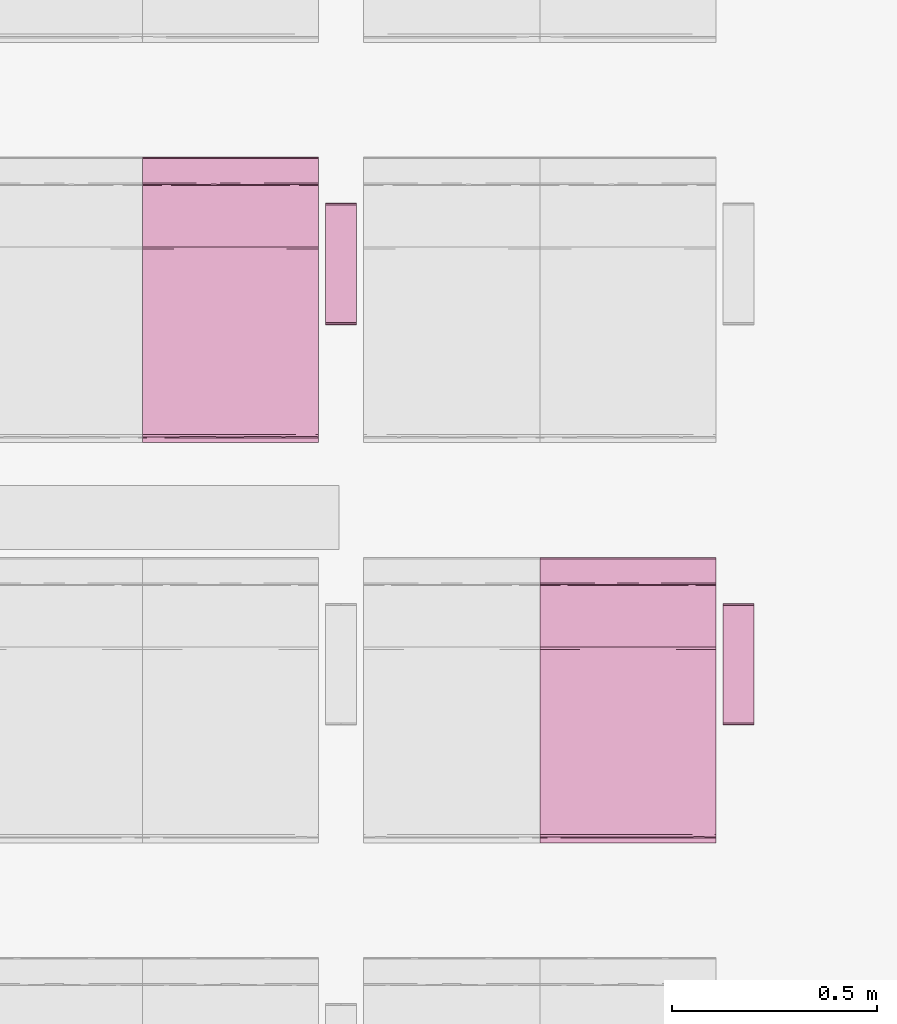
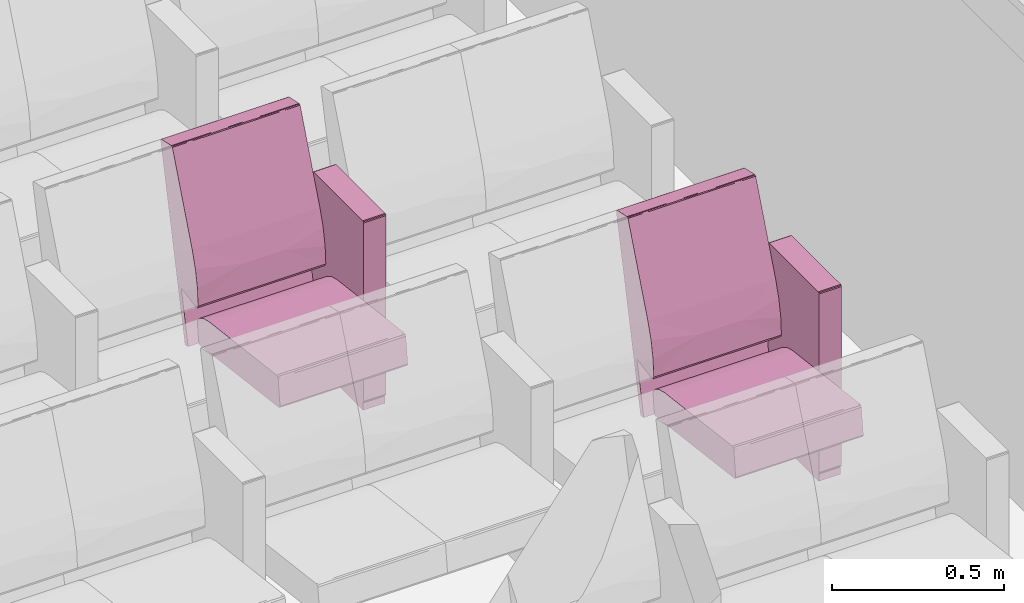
# One storey, part 131 of 155: 2 furnishings.
"""IFC2X3 building model written with IfcOpenShell, lengths in metres."""

from ifc_helpers import new_model, entity, si_unit, converted_unit, derived_unit, direction, frame, origin, place, context, subcontext, project, spatial, faceted_brep, source, transform, mapped, material, material_list, type_object, type_shapes, element, save


model = new_model("IFC2X3")

# Units and contexts
model_context = context("Model", 3, precision=1e-05, world=origin(), true_north=direction((6.12303176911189e-17, 1.0)))
body_context = subcontext(model_context, "Body", "Model", "MODEL_VIEW")
ifc_project = project(units=[si_unit("LENGTHUNIT", "METRE"), si_unit("AREAUNIT", "SQUARE_METRE"), si_unit("VOLUMEUNIT", "CUBIC_METRE"), converted_unit("PLANEANGLEUNIT", "DEGREE", entity("IfcRatioMeasure", 0.0174532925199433), si_unit("PLANEANGLEUNIT", "RADIAN"), dimensions=[0, 0, 0, 0, 0, 0, 0]), si_unit("MASSUNIT", "GRAM", prefix="KILO"), derived_unit("MASSDENSITYUNIT", [(si_unit("MASSUNIT", "GRAM", prefix="KILO"), 1), (si_unit("LENGTHUNIT", "METRE"), -3)]), si_unit("TIMEUNIT", "SECOND"), si_unit("FREQUENCYUNIT", "HERTZ"), si_unit("THERMODYNAMICTEMPERATUREUNIT", "DEGREE_CELSIUS"), derived_unit("THERMALTRANSMITTANCEUNIT", [(si_unit("MASSUNIT", "GRAM", prefix="KILO"), 1), (si_unit("THERMODYNAMICTEMPERATUREUNIT", "KELVIN"), -1), (si_unit("TIMEUNIT", "SECOND"), -3)]), derived_unit("VOLUMETRICFLOWRATEUNIT", [(si_unit("LENGTHUNIT", "METRE"), 3), (si_unit("TIMEUNIT", "SECOND"), -1)]), si_unit("ELECTRICCURRENTUNIT", "AMPERE"), si_unit("ELECTRICVOLTAGEUNIT", "VOLT"), si_unit("POWERUNIT", "WATT"), si_unit("FORCEUNIT", "NEWTON", prefix="KILO"), si_unit("ILLUMINANCEUNIT", "LUX"), si_unit("LUMINOUSFLUXUNIT", "LUMEN"), si_unit("LUMINOUSINTENSITYUNIT", "CANDELA"), derived_unit("USERDEFINED", [(si_unit("MASSUNIT", "GRAM", prefix="KILO"), -1), (si_unit("LENGTHUNIT", "METRE"), -2), (si_unit("TIMEUNIT", "SECOND"), 3), (si_unit("LUMINOUSFLUXUNIT", "LUMEN"), 1)]), derived_unit("LINEARVELOCITYUNIT", [(si_unit("LENGTHUNIT", "METRE"), 1), (si_unit("TIMEUNIT", "SECOND"), -1)]), si_unit("PRESSUREUNIT", "PASCAL"), derived_unit("USERDEFINED", [(si_unit("LENGTHUNIT", "METRE"), -2), (si_unit("MASSUNIT", "GRAM", prefix="KILO"), 1), (si_unit("TIMEUNIT", "SECOND"), -2)])], contexts=[model_context])

# Site, building, storey, space
site_placement = place(None, frame((26.9889013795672, -17.5624287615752, 0.0)))
site = spatial("IfcSite", under=ifc_project, at=site_placement, Name="Default", CompositionType="ELEMENT")
building_placement = place(site_placement, origin())
building = spatial("IfcBuilding", under=site, at=building_placement, Name="C. C. L. Monsenhor Antônio Sampaio", CompositionType="ELEMENT")
storey_placement = place(building_placement, frame((0.0, 0.0, 1.19999999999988)))
storey = spatial("IfcBuildingStorey", under=building, at=storey_placement, Name="Nível 1.2", CompositionType="ELEMENT", Elevation=1.19999999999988)
space_placement = place(storey_placement, origin())
space = spatial("IfcSpace", under=storey, at=space_placement, Name="94", CompositionType="ELEMENT", InteriorOrExteriorSpace="INTERNAL")

# Furnishings
ifc_material_1 = material(Name="V9 - V9 - Ecopelle_672_658")
ifc_material_2 = material(Name="V9 - V9 - RAL_9006_Grigio")
ifc_material_list_1 = material_list([ifc_material_1, ifc_material_2])
ifc_material_list_2 = material_list([ifc_material_1, ifc_material_2])
furniture_type = type_object("IfcFurnitureType", Name="Cadeira auditório", material=ifc_material_list_2)
shared_shape = source(origin(), body_context, "Body", "Brep", [
    faceted_brep([(0.405536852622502, -0.1075, 0.339809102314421), (0.410560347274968, -0.131924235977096, 0.34246450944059), (0.405536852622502, -0.156348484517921, 0.339809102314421), (0.41079981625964, -0.0179166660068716, 0.342749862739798), (0.410597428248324, -0.084060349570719, 0.342506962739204), (0.405536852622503, -0.0537499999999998, 0.339809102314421), (0.410248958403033, -0.173608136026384, 0.342130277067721), (0.405536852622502, -0.215, 0.339809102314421), (0.412515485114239, -0.143333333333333, 0.348529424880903), (0.412515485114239, -0.185674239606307, 0.348529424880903), (0.405536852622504, 0.1075, 0.33980910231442), (0.405536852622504, 0.156348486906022, 0.33980910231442), (0.410560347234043, 0.131924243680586, 0.342464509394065), (0.405536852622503, 0.0, 0.33980910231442), (0.411170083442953, 0.0341365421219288, 0.343251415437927), (0.41251548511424, 0.0, 0.348529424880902), (0.412515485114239, -0.0358333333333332, 0.348529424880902), (0.412515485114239, -0.0716666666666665, 0.348529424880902), (0.41251548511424, 0.143333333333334, 0.348529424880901), (0.41059742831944, 0.0840603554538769, 0.342506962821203), (0.405536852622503, 0.0537500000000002, 0.33980910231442), (0.410248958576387, 0.173608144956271, 0.342130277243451), (0.410799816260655, 0.215, 0.342749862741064), (0.412515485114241, 0.185674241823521, 0.348529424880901), (0.412515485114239, -0.215, 0.348529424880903), (0.410799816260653, -0.215, 0.342749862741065), (0.412515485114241, 0.215, 0.348529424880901), (0.41251548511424, 0.0716666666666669, 0.348529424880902), (0.405536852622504, 0.215, 0.33980910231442), (-0.0557900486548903, -0.215, 0.28268145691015), (-0.0557900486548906, -0.1881249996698, 0.282681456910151), (-0.0557900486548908, -0.161250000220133, 0.282681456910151), (-0.055790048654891, -0.134374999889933, 0.282681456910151), (-0.0557900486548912, -0.107499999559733, 0.282681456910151), (-0.0557900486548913, -0.0806250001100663, 0.282681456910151), (-0.0557900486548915, -0.0537499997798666, 0.282681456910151), (-0.0557900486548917, -0.0268749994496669, 0.282681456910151), (-0.0557900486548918, 0.0, 0.28268145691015), (-0.0557900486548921, 0.0268750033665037, 0.282681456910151), (-0.0557900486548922, 0.0537499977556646, 0.282681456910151), (-0.0557900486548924, 0.0806249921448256, 0.282681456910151), (-0.0557900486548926, 0.107499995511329, 0.282681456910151), (-0.0557900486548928, 0.138065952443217, 0.282681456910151), (-0.055790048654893, 0.168631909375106, 0.282681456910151), (-0.0557900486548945, 0.215, 0.28268145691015), (-0.0594787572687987, -0.0179017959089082, 0.283700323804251), (-0.0613666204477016, 0.0, 0.287029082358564), (-0.0594787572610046, 0.0152829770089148, 0.283700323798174), (-0.0594787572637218, -0.215, 0.283700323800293), (-0.0613666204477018, -0.215, 0.287029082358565), (-0.0613666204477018, -0.191815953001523, 0.287029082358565), (-0.0613666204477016, -0.030565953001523, 0.287029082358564), (-0.0593340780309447, -0.0671874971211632, 0.283591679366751), (-0.0593337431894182, 0.184174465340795, 0.283591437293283), (-0.0594787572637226, 0.215, 0.283700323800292), (-0.0593023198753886, 0.0940625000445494, 0.283568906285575), (-0.0613666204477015, 0.0611319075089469, 0.287029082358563), (-0.0613666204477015, 0.0916978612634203, 0.287029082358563), (-0.0613666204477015, 0.122263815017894, 0.287029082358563), (-0.0597338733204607, -0.147039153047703, 0.283913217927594), (-0.0613666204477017, -0.122263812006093, 0.287029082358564), (-0.059382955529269, -0.118123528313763, 0.28362747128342), (-0.0592501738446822, -0.180223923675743, 0.283532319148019), (-0.0613666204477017, -0.168631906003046, 0.287029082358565), (-0.0588783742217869, -0.0926899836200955, 0.283298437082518), (-0.0613666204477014, 0.168631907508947, 0.287029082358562), (-0.0613666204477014, 0.215, 0.287029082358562), (-0.0592576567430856, 0.123736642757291, 0.283537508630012), (-0.0594787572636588, 0.153348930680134, 0.283700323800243), (-0.0613666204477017, -0.0916978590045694, 0.287029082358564), (-0.0613666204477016, 0.0305659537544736, 0.287029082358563), (-0.059645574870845, 0.045848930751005, 0.283836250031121), (-0.0613666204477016, -0.0611319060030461, 0.287029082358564), (-0.0693403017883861, 0.143333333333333, 0.351419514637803), (-0.069340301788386, 0.215, 0.351419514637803), (-0.0693403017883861, -0.215, 0.351419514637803), (-0.0693403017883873, -0.143333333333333, 0.351419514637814), (-0.069340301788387, -0.0716666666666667, 0.351419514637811), (-0.0693403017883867, 0.0, 0.351419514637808), (-0.0693403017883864, 0.0716666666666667, 0.351419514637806), (-0.0653387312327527, -0.0126787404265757, 0.368680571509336), (-0.0645543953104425, -0.112272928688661, 0.369803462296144), (-0.0597085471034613, 0.0, 0.37476954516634), (-0.0655136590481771, 0.104400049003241, 0.368411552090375), (-0.0681665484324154, 0.0888707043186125, 0.36292533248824), (-0.0694879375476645, -0.0590582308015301, 0.356377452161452), (-0.0695056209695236, 0.125492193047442, 0.356093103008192), (-0.0597085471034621, 0.110316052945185, 0.374769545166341), (-0.0676206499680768, -0.215, 0.364371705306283), (-0.0672851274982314, -0.108066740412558, 0.365148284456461), (-0.0690003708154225, -0.132942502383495, 0.359900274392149), (-0.068624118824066, -0.215, 0.356813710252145), (-0.0686241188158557, 0.214999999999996, 0.356813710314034), (-0.0694502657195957, 0.0358333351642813, 0.356863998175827), (-0.0686999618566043, -0.035833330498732, 0.36116674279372), (-0.067620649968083, 0.214999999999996, 0.364371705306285), (-0.063664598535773, 0.214999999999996, 0.369570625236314), (-0.0597085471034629, 0.214999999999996, 0.374769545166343), (-0.0597085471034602, -0.110316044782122, 0.374769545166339), (-0.0636645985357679, -0.215, 0.36957062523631), (-0.0597085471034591, -0.215, 0.374769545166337), (-0.0018793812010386, -0.215, 0.398686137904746), (-0.0324117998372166, -0.0436847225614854, 0.39063968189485), (-0.0324117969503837, -0.215, 0.390639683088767), (-0.041847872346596, 0.0856576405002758, 0.386239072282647), (-0.00187938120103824, 0.102488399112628, 0.398686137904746), (-0.00187938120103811, 0.215, 0.398686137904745), (-0.0324117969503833, 0.215, 0.390639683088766), (-0.0219042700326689, 0.0570631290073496, 0.394412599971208), (-0.00187938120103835, 0.0, 0.398686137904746), (0.392202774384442, -0.215, 0.447486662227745), (0.392202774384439, -0.156349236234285, 0.447486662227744), (0.392202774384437, -0.107499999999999, 0.447486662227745), (0.392202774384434, -0.0537499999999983, 0.447486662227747), (0.392202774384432, 0.0, 0.447486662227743), (0.392202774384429, 0.0537500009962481, 0.44748666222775), (0.392202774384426, 0.107500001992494, 0.447486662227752), (0.392202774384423, 0.156349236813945, 0.447486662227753), (0.392202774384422, 0.215, 0.447486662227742), (0.397860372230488, 0.0827732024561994, 0.446039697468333), (0.401125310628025, 0.0976984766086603, 0.440530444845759), (0.398104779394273, 0.131924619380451, 0.445856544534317), (0.397373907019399, 0.173462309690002, 0.446363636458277), (0.401125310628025, 0.156349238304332, 0.440530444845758), (0.401125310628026, 0.215000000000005, 0.440530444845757), (0.398104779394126, 0.215000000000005, 0.445856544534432), (0.397860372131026, -0.0827731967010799, 0.446039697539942), (0.398104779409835, -0.131924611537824, 0.445856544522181), (0.398104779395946, -0.0268749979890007, 0.445856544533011), (0.398104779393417, 0.0237489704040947, 0.445856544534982), (0.401125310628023, -0.0488492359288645, 0.440530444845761), (0.401125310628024, 0.0488492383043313, 0.44053044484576), (0.398774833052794, -0.173462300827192, 0.445271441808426), (0.401125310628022, -0.0976984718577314, 0.440530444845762), (0.39810477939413, -0.215, 0.445856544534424), (0.401125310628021, -0.215, 0.440530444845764), (0.401125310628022, -0.156349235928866, 0.440530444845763), (0.401125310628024, 0.0, 0.44053044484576)], [[[0, 1, 2]], [[3, 4, 5]], [[2, 6, 7]], [[8, 9, 6]], [[10, 11, 12]], [[13, 3, 5]], [[3, 14, 15]], [[1, 4, 8]], [[6, 1, 8]], [[4, 3, 16]], [[16, 17, 8, 4]], [[12, 18, 19]], [[4, 1, 0]], [[20, 14, 13]], [[21, 22, 23]], [[15, 16, 3]], [[9, 24, 25]], [[26, 23, 22]], [[7, 6, 25]], [[12, 11, 21]], [[19, 14, 20]], [[4, 0, 5]], [[14, 27, 15]], [[13, 14, 3]], [[19, 18, 27]], [[19, 10, 12]], [[18, 21, 23]], [[10, 19, 20]], [[19, 27, 14]], [[2, 1, 6]], [[21, 11, 28]], [[25, 6, 9]], [[18, 12, 21]], [[22, 21, 28]], [[28, 11, 10, 20, 13, 5, 0, 2, 7, 29, 30, 31, 32, 33, 34, 35, 36, 37, 38, 39, 40, 41, 42, 43, 44]], [[45, 46, 47]], [[48, 49, 50]], [[51, 45, 52]], [[53, 54, 44]], [[55, 56, 57, 58]], [[59, 60, 61]], [[62, 63, 59]], [[34, 64, 52]], [[53, 65, 66]], [[41, 67, 42]], [[37, 36, 35, 45, 47, 38]], [[43, 42, 68]], [[29, 48, 30]], [[59, 31, 62]], [[62, 48, 50]], [[61, 69, 64]], [[65, 53, 68]], [[50, 63, 62]], [[62, 30, 48]], [[55, 58, 67]], [[32, 31, 59]], [[46, 70, 47]], [[65, 68, 58]], [[55, 40, 71]], [[70, 56, 71]], [[61, 33, 32]], [[59, 63, 60]], [[39, 38, 71, 40]], [[47, 71, 38]], [[51, 46, 45]], [[70, 71, 47]], [[71, 56, 55]], [[40, 55, 41]], [[67, 68, 42]], [[43, 68, 53]], [[43, 53, 44]], [[66, 54, 53]], [[68, 67, 58]], [[55, 67, 41]], [[72, 51, 52, 69]], [[62, 31, 30]], [[59, 61, 32]], [[35, 52, 45]], [[64, 34, 33]], [[34, 52, 35]], [[61, 60, 69]], [[52, 64, 69]], [[61, 64, 33]], [[73, 74, 66, 65, 58, 57, 56, 70, 46, 51, 72, 69, 60, 63, 50, 49, 75, 76, 77, 78, 79]], [[80, 81, 82]], [[83, 84, 80]], [[85, 78, 77, 76]], [[73, 79, 86]], [[80, 82, 83]], [[87, 83, 82]], [[88, 89, 90]], [[76, 75, 91]], [[92, 74, 73]], [[91, 90, 85]], [[80, 89, 81]], [[84, 93, 94]], [[84, 86, 93]], [[93, 78, 85]], [[73, 86, 92]], [[94, 93, 85]], [[95, 92, 84]], [[78, 93, 79]], [[80, 84, 94]], [[83, 96, 95]], [[94, 85, 90]], [[87, 97, 96]], [[98, 99, 100]], [[91, 85, 76]], [[94, 90, 89]], [[90, 91, 88]], [[89, 80, 94]], [[89, 99, 81]], [[89, 88, 99]], [[82, 81, 98]], [[81, 99, 98]], [[92, 86, 84]], [[93, 86, 79]], [[84, 83, 95]], [[96, 83, 87]], [[101, 102, 103]], [[104, 97, 87, 82]], [[105, 106, 107]], [[107, 108, 105]], [[109, 102, 101]], [[82, 102, 104]], [[102, 108, 104]], [[103, 102, 100]], [[97, 104, 107]], [[104, 108, 107]], [[102, 82, 98, 100]], [[105, 108, 109]], [[108, 102, 109]], [[109, 101, 110, 111, 112, 113, 114, 115, 116, 117, 118, 106, 105]], [[119, 120, 121]], [[122, 123, 124]], [[122, 125, 118]], [[126, 113, 112]], [[117, 121, 122]], [[121, 117, 116]], [[112, 111, 127]], [[113, 128, 129, 115, 114]], [[126, 130, 128]], [[129, 131, 119]], [[111, 132, 127]], [[132, 111, 110]], [[133, 126, 127]], [[123, 122, 121]], [[132, 134, 135]], [[127, 132, 136]], [[123, 121, 120]], [[127, 136, 133]], [[129, 128, 130, 137, 131]], [[112, 127, 126]], [[126, 133, 130]], [[119, 121, 116]], [[113, 126, 128]], [[119, 115, 129]], [[119, 116, 115]], [[120, 119, 131]], [[117, 122, 118]], [[124, 125, 122]], [[136, 132, 135]], [[110, 134, 132]], [[137, 130, 133, 136, 135, 24, 9, 8, 17, 16, 15, 27, 18, 23, 26, 124, 123, 120, 131]], [[44, 54, 66, 74, 92, 95, 96, 97, 107, 106, 118, 125, 124, 26, 22, 28]], [[75, 49, 48, 29, 7, 25, 24, 135, 134, 110, 101, 103, 100, 99, 88, 91]]]),
    faceted_brep([(0.119812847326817, 0.27, 0.674900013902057), (0.12334838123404, 0.259944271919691, 0.6734355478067), (0.123144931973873, 0.283972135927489, 0.673627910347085), (0.124812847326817, 0.27, 0.669900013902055), (0.119812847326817, 0.232, 0.674900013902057), (0.12334838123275, 0.232, 0.673435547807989), (0.124812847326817, 0.308, 0.669900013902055), (0.119812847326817, 0.308, 0.674900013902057), (0.124812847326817, 0.249888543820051, 0.669900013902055), (0.124812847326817, 0.232, 0.669900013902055), (0.12334838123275, 0.308, 0.673435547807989), (0.124812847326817, 0.232, 0.0349999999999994), (0.124812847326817, 0.27, 0.035), (0.124812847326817, 0.308, 0.035), (0.12334838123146, 0.25994427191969, 0.0314644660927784), (0.123540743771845, 0.283972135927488, 0.0316679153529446), (0.119812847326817, 0.27, 0.0300000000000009), (0.12334838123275, 0.232, 0.0314644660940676), (0.119812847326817, 0.308, 0.0300000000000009), (0.119812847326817, 0.249888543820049, 0.030000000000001), (0.119812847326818, 0.232, 0.030000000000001), (0.123348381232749, 0.308, 0.0314644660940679), (-0.167179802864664, 0.27, 0.0300000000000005), (-0.167179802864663, 0.308, 0.0300000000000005), (-0.167179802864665, 0.232, 0.0300000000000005), (-0.170715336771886, 0.25994427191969, 0.0314644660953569), (-0.17051188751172, 0.283972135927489, 0.0312721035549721), (-0.172179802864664, 0.27, 0.0350000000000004), (-0.170715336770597, 0.232, 0.0314644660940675), (-0.172179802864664, 0.308, 0.0350000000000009), (-0.172179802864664, 0.24988854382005, 0.0350000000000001), (-0.172179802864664, 0.232, 0.0349999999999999), (-0.170715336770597, 0.308, 0.0314644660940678), (-0.172179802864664, 0.308, 0.669900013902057), (-0.172179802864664, 0.232, 0.669900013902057), (-0.172179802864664, 0.27, 0.669900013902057), (-0.170715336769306, 0.259944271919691, 0.673435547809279), (-0.170907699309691, 0.283972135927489, 0.673232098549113), (-0.167179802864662, 0.27, 0.674900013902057), (-0.170715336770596, 0.232, 0.67343554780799), (-0.167179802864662, 0.308, 0.674900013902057), (-0.167179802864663, 0.249888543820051, 0.674900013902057), (-0.167179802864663, 0.232, 0.674900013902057), (-0.170715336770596, 0.308, 0.67343554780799)], [[[0, 1, 2]], [[3, 2, 1]], [[0, 4, 5, 1]], [[2, 3, 6]], [[0, 2, 7]], [[8, 3, 1, 5, 9]], [[7, 2, 10]], [[6, 10, 2]], [[9, 11, 12, 13, 6, 3, 8]], [[12, 14, 15]], [[16, 15, 14]], [[12, 11, 17, 14]], [[15, 16, 18]], [[12, 15, 13]], [[19, 16, 14, 17, 20]], [[13, 15, 21]], [[18, 21, 15]], [[22, 23, 18, 16, 19, 20, 24]], [[22, 25, 26]], [[27, 26, 25]], [[22, 24, 28, 25]], [[26, 27, 29]], [[22, 26, 23]], [[30, 27, 25, 28, 31]], [[23, 26, 32]], [[29, 32, 26]], [[33, 29, 27, 30, 31, 34, 35]], [[35, 36, 37]], [[38, 37, 36]], [[35, 34, 39, 36]], [[37, 38, 40]], [[35, 37, 33]], [[41, 38, 36, 39, 42]], [[33, 37, 43]], [[40, 43, 37]], [[0, 7, 40, 38, 41, 42, 4]], [[42, 39, 34, 31, 28, 24, 20, 17, 11, 9, 5, 4]], [[23, 32, 29, 33, 43, 40, 7, 10, 6, 13, 21, 18]]]),
    faceted_brep([(-0.0655618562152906, -0.215, 0.415143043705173), (-0.0744051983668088, -0.0524423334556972, 0.506888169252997), (-0.0695672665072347, -0.215, 0.476508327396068), (-0.0655618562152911, 0.0, 0.415143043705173), (-0.0744051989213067, 0.0780075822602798, 0.506888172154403), (-0.0655618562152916, 0.1075, 0.415143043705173), (-0.0655618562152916, 0.215, 0.415143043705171), (-0.0655618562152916, -0.1075, 0.415143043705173), (-0.0695672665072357, 0.215, 0.476508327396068), (-0.0811110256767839, 0.215, 0.536911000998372), (-0.0811110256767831, -0.215, 0.536911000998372), (-0.100016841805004, 0.0, 0.595428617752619), (-0.100016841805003, -0.215, 0.595428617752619), (-0.100016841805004, 0.215, 0.595428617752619), (-0.0792851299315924, -0.0716666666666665, 0.404772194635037), (-0.0792851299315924, 0.0, 0.404772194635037), (-0.0698317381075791, -0.0358333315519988, 0.406528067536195), (-0.0698317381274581, 0.215, 0.406528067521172), (-0.0792851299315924, 0.143333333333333, 0.404772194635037), (-0.0792851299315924, 0.215, 0.404772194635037), (-0.0698317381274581, -0.215, 0.406528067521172), (-0.0792851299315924, -0.215, 0.404772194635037), (-0.0792851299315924, -0.143333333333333, 0.404772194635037), (-0.0694171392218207, -0.140338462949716, 0.406857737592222), (-0.0708115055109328, 0.0356393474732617, 0.405868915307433), (-0.0703502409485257, 0.107500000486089, 0.406159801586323), (-0.0792851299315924, 0.0716666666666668, 0.404772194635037), (-0.163837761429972, 0.215, 0.420611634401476), (-0.163837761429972, -0.215, 0.420611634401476), (-0.123612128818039, -0.215, 0.235917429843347), (-0.123612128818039, 0.215, 0.235917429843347), (-0.142059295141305, -0.215, 0.231899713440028), (-0.142059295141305, 0.215, 0.231899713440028), (-0.235388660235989, -0.215, 0.652619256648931), (-0.235388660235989, 0.215, 0.652619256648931), (-0.28428001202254, 0.0, 0.873004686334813), (-0.284280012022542, 0.0268749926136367, 0.873004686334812), (-0.284280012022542, 0.0537499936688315, 0.873004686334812), (-0.284280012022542, 0.0806249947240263, 0.873004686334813), (-0.284280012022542, 0.107499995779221, 0.873004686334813), (-0.284280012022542, 0.134374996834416, 0.873004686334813), (-0.284280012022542, 0.161249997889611, 0.873004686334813), (-0.284280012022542, 0.191295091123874, 0.873004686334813), (-0.28428001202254, 0.215, 0.873004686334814), (-0.284280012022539, -0.215, 0.873004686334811), (-0.28428001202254, -0.191295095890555, 0.873004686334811), (-0.284280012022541, -0.161249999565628, 0.873004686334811), (-0.284280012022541, -0.134374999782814, 0.873004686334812), (-0.284280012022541, -0.1075, 0.873004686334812), (-0.284280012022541, -0.0806250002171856, 0.873004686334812), (-0.284280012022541, -0.0537500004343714, 0.873004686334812), (-0.284280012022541, -0.0268749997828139, 0.873004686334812), (-0.283504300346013, -0.0569644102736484, 0.877068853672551), (-0.283746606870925, -0.0872244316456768, 0.876674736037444), (-0.283641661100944, 0.12093750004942, 0.876855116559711), (-0.283567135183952, 0.15546176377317, 0.876973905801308), (-0.28330409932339, -0.185293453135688, 0.877344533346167), (-0.283567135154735, -0.155461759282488, 0.876973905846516), (-0.280514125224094, 0.0, 0.879190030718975), (-0.280514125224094, 0.0358333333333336, 0.879190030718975), (-0.283641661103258, 0.0136463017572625, 0.876855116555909), (-0.283641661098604, -0.0179166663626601, 0.876855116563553), (-0.280514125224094, -0.0358333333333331, 0.879190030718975), (-0.280514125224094, 0.1075, 0.879190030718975), (-0.280514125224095, 0.143333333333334, 0.879190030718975), (-0.283746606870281, 0.0872244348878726, 0.876674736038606), (-0.280514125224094, 0.071666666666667, 0.879190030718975), (-0.280514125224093, -0.1075, 0.879190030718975), (-0.280514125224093, -0.0716666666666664, 0.879190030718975), (-0.280514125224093, -0.143333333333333, 0.879190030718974), (-0.283641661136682, -0.120937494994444, 0.876855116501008), (-0.283641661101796, -0.215, 0.876855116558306), (-0.283641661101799, 0.215, 0.876855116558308), (-0.280514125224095, 0.167590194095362, 0.879190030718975), (-0.283304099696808, 0.18529345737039, 0.877344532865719), (-0.280514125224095, 0.215, 0.879190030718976), (-0.280514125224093, -0.167590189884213, 0.879190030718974), (-0.280514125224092, -0.215, 0.879190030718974), (-0.283504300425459, 0.0569644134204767, 0.8770688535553), (-0.221112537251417, -0.215, 0.892176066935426), (-0.221112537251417, -0.19181594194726, 0.892176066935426), (-0.221112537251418, -0.16124999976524, 0.892176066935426), (-0.221112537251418, -0.13437499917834, 0.892176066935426), (-0.221112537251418, -0.10749999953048, 0.892176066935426), (-0.221112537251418, -0.08062499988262, 0.892176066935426), (-0.221112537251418, -0.0537500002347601, 0.892176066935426), (-0.221112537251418, -0.0268750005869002, 0.892176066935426), (-0.221112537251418, 0.0, 0.892176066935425), (-0.221112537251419, 0.0268750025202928, 0.892176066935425), (-0.221112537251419, 0.053749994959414, 0.892176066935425), (-0.221112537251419, 0.0806249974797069, 0.892176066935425), (-0.221112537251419, 0.1075, 0.892176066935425), (-0.221112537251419, 0.134375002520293, 0.892176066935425), (-0.221112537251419, 0.161250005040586, 0.892176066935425), (-0.221112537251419, 0.191815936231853, 0.892176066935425), (-0.221112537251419, 0.215, 0.892176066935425), (-0.217722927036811, -0.0162353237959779, 0.891719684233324), (-0.215419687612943, -0.0358333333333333, 0.889191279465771), (-0.215419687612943, 0.0, 0.889191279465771), (-0.217722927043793, 0.0134375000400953, 0.891719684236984), (-0.217722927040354, 0.120937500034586, 0.89171968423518), (-0.217722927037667, 0.0912646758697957, 0.891719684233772), (-0.215419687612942, 0.0716666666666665, 0.88919127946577), (-0.215419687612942, 0.1075, 0.88919127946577), (-0.215419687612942, 0.143333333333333, 0.88919127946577), (-0.217722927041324, 0.215, 0.891719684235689), (-0.217722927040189, 0.182482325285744, 0.891719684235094), (-0.215419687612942, 0.168631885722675, 0.889191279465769), (-0.215419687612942, 0.191815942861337, 0.889191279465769), (-0.215419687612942, 0.215, 0.889191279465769), (-0.217722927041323, -0.215, 0.89171968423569), (-0.215419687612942, -0.215, 0.889191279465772), (-0.215419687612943, -0.191815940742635, 0.889191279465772), (-0.217722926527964, -0.190103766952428, 0.891719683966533), (-0.2179983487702, 0.039082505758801, 0.891853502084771), (-0.217816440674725, 0.0647800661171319, 0.891767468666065), (-0.217558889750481, 0.155982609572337, 0.891629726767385), (-0.217722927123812, -0.120937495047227, 0.891719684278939), (-0.217558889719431, -0.15598260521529, 0.891629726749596), (-0.215419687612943, -0.143333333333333, 0.889191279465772), (-0.215419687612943, -0.16863188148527, 0.889191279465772), (-0.215419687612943, -0.0716666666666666, 0.889191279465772), (-0.217816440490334, -0.0647800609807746, 0.891767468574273), (-0.217722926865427, -0.0912646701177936, 0.891719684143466), (-0.215419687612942, 0.0358333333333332, 0.889191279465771), (-0.215419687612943, -0.1075, 0.889191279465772), (-0.218257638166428, -0.0404491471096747, 0.891961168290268)], [[[0, 1, 2]], [[3, 4, 1]], [[4, 3, 5, 6]], [[1, 0, 7, 3]], [[8, 4, 6]], [[9, 4, 8]], [[1, 10, 2]], [[1, 11, 12]], [[9, 13, 4]], [[13, 11, 4]], [[10, 1, 12]], [[11, 1, 4]], [[14, 15, 16]], [[17, 18, 19]], [[20, 21, 22]], [[20, 23, 0]], [[3, 7, 16]], [[15, 24, 16]], [[24, 25, 5]], [[22, 23, 20]], [[7, 23, 16]], [[6, 5, 17]], [[16, 24, 3]], [[16, 23, 14]], [[23, 22, 14]], [[18, 25, 26]], [[18, 17, 25]], [[26, 24, 15]], [[7, 0, 23]], [[5, 25, 17]], [[25, 24, 26]], [[3, 24, 5]], [[27, 19, 18, 26, 15, 14, 22, 21, 28]], [[27, 28, 29, 30]], [[31, 32, 30, 29]], [[33, 34, 32, 31]], [[35, 36, 37, 38, 39, 40, 41, 42, 43, 34, 33, 44, 45, 46, 47, 48, 49, 50, 51]], [[52, 49, 53]], [[54, 55, 40]], [[46, 56, 57]], [[58, 59, 60, 61, 62]], [[54, 63, 64]], [[65, 66, 63]], [[67, 68, 53]], [[57, 69, 70]], [[45, 56, 46]], [[39, 54, 40]], [[45, 44, 71]], [[72, 43, 42]], [[35, 51, 61, 60, 36]], [[55, 73, 74]], [[39, 65, 54]], [[74, 73, 75]], [[67, 53, 70]], [[74, 42, 41]], [[64, 73, 55]], [[56, 76, 57]], [[74, 72, 42]], [[76, 56, 77]], [[56, 71, 77]], [[57, 76, 69]], [[48, 70, 53]], [[70, 48, 47]], [[60, 78, 36]], [[63, 54, 65]], [[71, 56, 45]], [[41, 55, 74]], [[72, 74, 75]], [[57, 70, 47]], [[47, 46, 57]], [[69, 67, 70]], [[50, 49, 52, 51]], [[52, 62, 61]], [[61, 51, 52]], [[55, 41, 40]], [[55, 54, 64]], [[66, 65, 78]], [[65, 38, 78]], [[52, 53, 68]], [[37, 36, 78, 38]], [[78, 59, 66]], [[59, 78, 60]], [[49, 48, 53]], [[65, 39, 38]], [[52, 68, 62]], [[79, 80, 81, 82, 83, 84, 85, 86, 87, 88, 89, 90, 91, 92, 93, 94, 95, 75, 73, 64, 63, 66, 59, 58, 62, 68, 67, 69, 76, 77]], [[96, 97, 98, 99]], [[100, 101, 102, 103, 104]], [[105, 106, 107, 108, 109]], [[110, 111, 112]], [[80, 110, 113]], [[89, 114, 115]], [[92, 116, 93]], [[94, 93, 106, 105, 95]], [[80, 79, 110]], [[92, 91, 90, 101, 100]], [[99, 88, 87, 86, 96]], [[104, 107, 116]], [[117, 83, 82]], [[117, 118, 119]], [[112, 120, 113]], [[118, 120, 119]], [[118, 81, 113]], [[116, 107, 106]], [[101, 90, 115]], [[121, 122, 123]], [[104, 116, 100]], [[110, 112, 113]], [[114, 99, 124]], [[92, 100, 116]], [[117, 125, 123]], [[82, 81, 118]], [[118, 117, 82]], [[83, 117, 123]], [[125, 117, 119]], [[102, 101, 115]], [[84, 83, 123]], [[123, 125, 121]], [[85, 84, 122]], [[89, 115, 90]], [[96, 86, 126]], [[124, 102, 115]], [[88, 99, 114]], [[99, 98, 124]], [[122, 121, 97]], [[126, 122, 97]], [[88, 114, 89]], [[115, 114, 124]], [[123, 122, 84]], [[126, 85, 122]], [[85, 126, 86]], [[96, 126, 97]], [[116, 106, 93]], [[80, 113, 81]], [[118, 113, 120]], [[12, 11, 13, 109, 108, 107, 104, 103, 102, 124, 98, 97, 121, 125, 119, 120, 112, 111]], [[30, 32, 34, 43, 72, 75, 95, 105, 109, 13, 9, 8, 6, 17, 19, 27]], [[77, 71, 44, 33, 31, 29, 28, 21, 20, 0, 2, 10, 12, 111, 110, 79]]]),
    faceted_brep([(0.120312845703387, 0.2335, 0.0), (0.120312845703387, 0.3065, 0.0), (0.120312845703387, 0.3065, 0.0260000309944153), (0.120312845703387, 0.27, 0.0260000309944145), (0.120312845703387, 0.249500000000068, 0.0260000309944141), (0.120312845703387, 0.2335, 0.0260000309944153), (-0.167687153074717, 0.2335, 0.0), (-0.167687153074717, 0.3065, 0.0), (-0.167687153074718, 0.3065, 0.0260000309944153), (-0.167687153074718, 0.2335, 0.0260000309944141), (-0.167687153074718, 0.27, 0.0260000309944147), (-0.163702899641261, 0.233500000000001, 0.0300000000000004), (-0.166521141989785, 0.257382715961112, 0.0288228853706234), (-0.166521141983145, 0.233500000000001, 0.0288228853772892), (-0.166521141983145, 0.3065, 0.0288228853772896), (-0.16652114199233, 0.279986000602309, 0.0288228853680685), (-0.163702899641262, 0.3065, 0.0300000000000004), (-0.163702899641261, 0.27, 0.0300000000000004), (0.116297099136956, 0.2335, 0.0300000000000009), (0.116297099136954, 0.270000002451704, 0.0300000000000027), (0.116297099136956, 0.3065, 0.0300000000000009), (0.119033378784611, 0.283124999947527, 0.0289323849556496), (0.119135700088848, 0.259750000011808, 0.0288340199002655), (0.1191357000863, 0.2335, 0.0288340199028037), (0.119135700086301, 0.3065, 0.0288340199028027)], [[[0, 1, 2, 3, 4, 5]], [[6, 7, 1, 0]], [[8, 7, 6, 9, 10]], [[11, 12, 13]], [[14, 15, 16]], [[17, 16, 15, 12, 11]], [[13, 12, 10, 9]], [[8, 15, 14]], [[12, 15, 8, 10]], [[16, 17, 11, 18, 19, 20]], [[3, 2, 21]], [[22, 19, 18, 23]], [[22, 23, 5, 4, 3]], [[20, 21, 24]], [[22, 3, 21]], [[19, 21, 20]], [[2, 24, 21]], [[19, 22, 21]], [[20, 24, 2, 1, 7, 8, 14, 16]], [[18, 11, 13, 9, 6, 0, 5, 23]]]),
])
type_shapes(furniture_type, [shared_shape])
furnishing_1_placement = place(space_placement, frame((-6.66594929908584, -15.3086263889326, 0.0), z_axis=(0.0, 0.0, 1.0), x_axis=(0.0, -1.0, 0.0)))
element("IfcFurnishingElement", 1, at=furnishing_1_placement, inside=space, type_object=furniture_type, material=ifc_material_list_1, Name="cadeira auditório pcd:Cadeira auditório", ObjectType="Cadeira auditório", context=body_context, shape_type="MappedRepresentation", body=[
    mapped(shared_shape, transform((0.0, 0.0, 0.0), scale=1.0)),
])
ifc_material_list_3 = material_list([ifc_material_1, ifc_material_2])
furnishing_2_placement = place(space_placement, frame((-7.63594929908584, -14.3320195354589, 0.0), z_axis=(0.0, 0.0, 1.0), x_axis=(0.0, -1.0, 0.0)))
element("IfcFurnishingElement", 2, at=furnishing_2_placement, inside=space, type_object=furniture_type, material=ifc_material_list_3, Name="cadeira auditório pcd:Cadeira auditório", ObjectType="Cadeira auditório", context=body_context, shape_type="MappedRepresentation", body=[
    mapped(shared_shape, transform((0.0, 0.0, 0.0), scale=1.0)),
])

save(model, "model.ifc")
